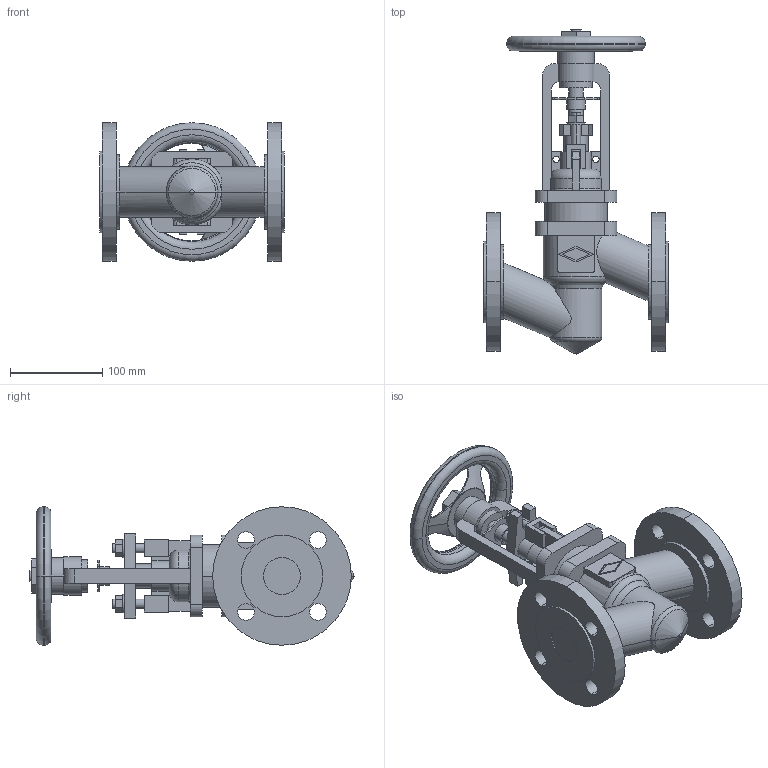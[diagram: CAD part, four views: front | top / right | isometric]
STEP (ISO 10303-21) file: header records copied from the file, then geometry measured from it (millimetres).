
FILE_DESCRIPTION(('OneSpaceDesigner STEP Export'),'2;1');
FILE_NAME('c000004282.stp','2010-05-05T10:04:27',(''),(''),'OneSpace Designer STEP processor for AP214 (Solid Model)','OneSpace Modeling 15.50B 03-Nov-2007 (C) CoCreate Software GmbH','');
FILE_SCHEMA(('AUTOMOTIVE_DESIGN { 1 0 10303 214 1 1 1 1 }'));
Length unit declared in the file: millimetre
Products named in the file (1): 1
Bounding box: 200 x 350.9 x 150 mm (x, y, z)
Volume: 1890505 mm3; surface area: 246286 mm2
Topology: 1 solids, 1 shells, 304 faces, 815 edges, 537 vertices
Faces by surface type: plane 145, cylinder 125, torus 24, cone 8, sphere 2
Entity records: 12235 total; most frequent: CARTESIAN_POINT 2552, ORIENTED_EDGE 1622, DIRECTION 1351, EDGE_CURVE 811, VERTEX_POINT 533, AXIS2_PLACEMENT_3D 460, VECTOR 431, LINE 431
